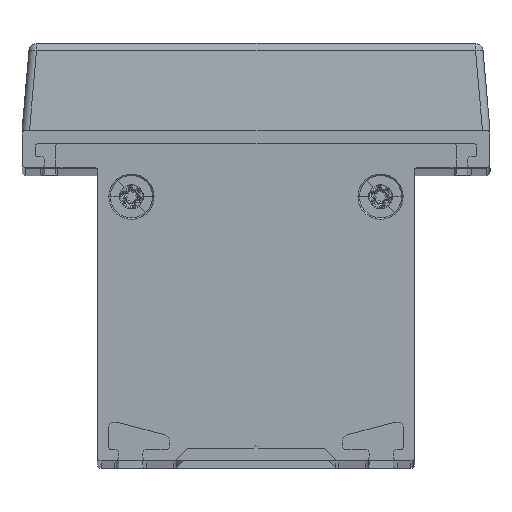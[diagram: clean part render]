
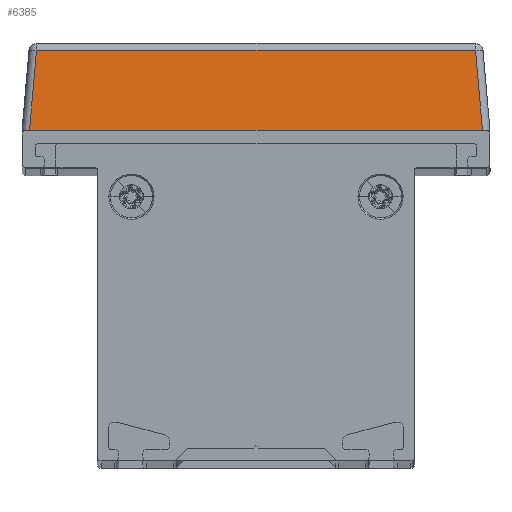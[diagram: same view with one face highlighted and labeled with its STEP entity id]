
A CAD part, top view. The second image highlights one B-rep face of the part: STEP entity #6385.
In plain terms, the highlighted planar face has unit normal (0, 0.087, 0.996) as drawn and (-0.996, 0.087, 0) by its records, which use the part's own axes.
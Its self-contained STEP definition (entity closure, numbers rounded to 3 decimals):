
#40 = ORIENTED_EDGE ( 'NONE', *, *, #5219, .T. ) ;
#322 = LINE ( 'NONE', #2455, #6887 ) ;
#653 = VECTOR ( 'NONE', #7575, 1000. ) ;
#700 = ORIENTED_EDGE ( 'NONE', *, *, #1747, .T. ) ;
#951 = DIRECTION ( 'NONE',  ( -0.087, -0.992, -0.087 ) ) ;
#1203 = EDGE_LOOP ( 'NONE', ( #1442, #40, #4849, #700 ) ) ;
#1442 = ORIENTED_EDGE ( 'NONE', *, *, #4860, .T. ) ;
#1747 = EDGE_CURVE ( 'NONE', #8463, #4512, #6784, .T. ) ;
#1968 = CARTESIAN_POINT ( 'NONE',  ( -142.574, 10.587, -29.078 ) ) ;
#2413 = CARTESIAN_POINT ( 'NONE',  ( -143.5, 0., 31. ) ) ;
#2455 = CARTESIAN_POINT ( 'NONE',  ( -142.574, 10.587, -29.994 ) ) ;
#2457 = EDGE_CURVE ( 'NONE', #2682, #8463, #322, .T. ) ;
#2682 = VERTEX_POINT ( 'NONE', #5751 ) ;
#2720 = FACE_OUTER_BOUND ( 'NONE', #1203, .T. ) ;
#3440 = PLANE ( 'NONE',  #5991 ) ;
#3849 = DIRECTION ( 'NONE',  ( 0., 0., 1. ) ) ;
#4170 = DIRECTION ( 'NONE',  ( -0.087, -0.996, 0. ) ) ;
#4512 = VERTEX_POINT ( 'NONE', #6278 ) ;
#4736 = LINE ( 'NONE', #2413, #8374 ) ;
#4780 = VERTEX_POINT ( 'NONE', #5137 ) ;
#4849 = ORIENTED_EDGE ( 'NONE', *, *, #2457, .T. ) ;
#4860 = EDGE_CURVE ( 'NONE', #4512, #4780, #4736, .T. ) ;
#5137 = CARTESIAN_POINT ( 'NONE',  ( -143.5, 0., 30.004 ) ) ;
#5219 = EDGE_CURVE ( 'NONE', #4780, #2682, #8366, .T. ) ;
#5346 = CARTESIAN_POINT ( 'NONE',  ( -143.04, 5.257, -29.544 ) ) ;
#5751 = CARTESIAN_POINT ( 'NONE',  ( -142.574, 10.587, 29.078 ) ) ;
#5991 = AXIS2_PLACEMENT_3D ( 'NONE', #7075, #8503, #4170 ) ;
#6278 = CARTESIAN_POINT ( 'NONE',  ( -143.5, 0., -30.004 ) ) ;
#6385 = ADVANCED_FACE ( 'NONE', ( #2720 ), #3440, .T. ) ;
#6784 = LINE ( 'NONE', #5346, #8245 ) ;
#6854 = CARTESIAN_POINT ( 'NONE',  ( -143.508, -0.086, 30.011 ) ) ;
#6887 = VECTOR ( 'NONE', #7978, 1000. ) ;
#7075 = CARTESIAN_POINT ( 'NONE',  ( -143.5, 0., 31. ) ) ;
#7575 = DIRECTION ( 'NONE',  ( 0.087, 0.992, -0.087 ) ) ;
#7978 = DIRECTION ( 'NONE',  ( 0., 0., -1. ) ) ;
#8245 = VECTOR ( 'NONE', #951, 1000. ) ;
#8366 = LINE ( 'NONE', #6854, #653 ) ;
#8374 = VECTOR ( 'NONE', #3849, 1000. ) ;
#8463 = VERTEX_POINT ( 'NONE', #1968 ) ;
#8503 = DIRECTION ( 'NONE',  ( -0.996, 0.087, 0. ) ) ;
